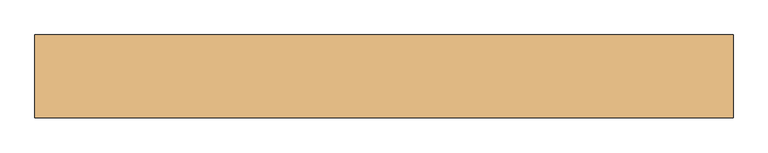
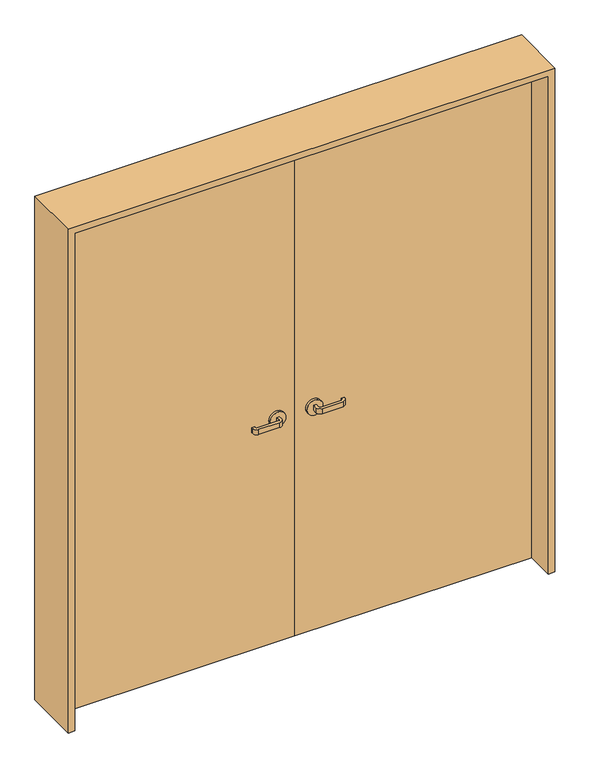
"""IFC4 building model written with IfcOpenShell, lengths in millimetres: door geometry, 両開き戸 : 両開き：w1800h2000."""

from ifc_helpers import new_model, si_unit, point, frame, frame_2d, origin, origin_with_axes, place, context, project, spatial, polyline, circle_curve, trimmed, segment, composite_curve, outline, extrude, source, transform, mapped, element, save


def door_d36aa26d(model_context):
    return source(origin(), model_context, "Body", "SweptSolid", [
        extrude(outline(polyline([(891.5283918, 40.0), (891.5283918, 0.0), (-8.4716082, 0.0), (-8.4716082, 40.0), (891.5283918, 40.0)])), origin_with_axes(), (0.0, 0.0, 1.0), 2000.0),
        extrude(outline(polyline([(-8.4716082, 40.0), (-8.4716082, 0.0), (-908.4716082, 0.0), (-908.4716082, 40.0), (-8.4716082, 40.0)])), origin_with_axes(), (0.0, 0.0, 1.0), 2000.0),
        extrude(outline(composite_curve([segment(polyline([(-83.4716082, 50.0), (-83.4716082, 65.0)]), True, "CONTINUOUS"), segment(trimmed(circle_curve(frame_2d((-88.4716082, 65.0)), 5.0), [point((-83.4716082, 65.0))], [point((-88.4716082, 70.0))], True, "CARTESIAN"), True, "CONTINUOUS"), segment(polyline([(-88.4716082, 70.0), (-168.4716082, 70.0)]), True, "CONTINUOUS"), segment(trimmed(circle_curve(frame_2d((-168.4716082, 65.0)), 5.0), [point((-168.4716082, 70.0))], [point((-173.4716082, 65.0))], True, "CARTESIAN"), True, "CONTINUOUS"), segment(polyline([(-173.4716082, 65.0), (-173.4716082, 60.0), (-183.4716082, 60.0), (-183.4716082, 65.0)]), True, "CONTINUOUS"), segment(trimmed(circle_curve(frame_2d((-168.4716082, 65.0)), 15.0), [point((-183.4716082, 65.0))], [point((-168.4716082, 80.0))], False, "CARTESIAN"), True, "CONTINUOUS"), segment(polyline([(-168.4716082, 80.0), (-88.4716082, 80.0)]), True, "CONTINUOUS"), segment(trimmed(circle_curve(frame_2d((-88.4716082, 65.0)), 15.0), [point((-88.4716082, 80.0))], [point((-73.4716082, 65.0))], False, "CARTESIAN"), True, "CONTINUOUS"), segment(polyline([(-73.4716082, 65.0), (-73.4716082, 50.0), (-83.4716082, 50.0)]), True, "CONTINUOUS")], self_intersect=False)), frame((0.0, 0.0, 890.0), z_axis=(0.0, 0.0, 1.0), x_axis=(1.0, 0.0, 0.0)), (0.0, 0.0, 1.0), 20.0),
        extrude(outline(composite_curve([segment(trimmed(circle_curve(frame_2d((900.0, -78.4716082)), 30.0), [point((900.0, -48.4716082))], [point((900.0, -108.4716082))], False, "CARTESIAN"), True, "CONTINUOUS"), segment(trimmed(circle_curve(frame_2d((900.0, -78.4716082)), 30.0), [point((900.0, -108.4716082))], [point((900.0, -48.4716082))], False, "CARTESIAN"), True, "CONTINUOUS")], self_intersect=False)), frame((0.0, 40.0, 0.0), z_axis=(0.0, 1.0, 0.0), x_axis=(0.0, 0.0, 1.0)), (0.0, 0.0, 1.0), 10.0),
        extrude(outline(composite_curve([segment(polyline([(-73.4716082, -10.0), (-73.4716082, -25.0)]), True, "CONTINUOUS"), segment(trimmed(circle_curve(frame_2d((-88.4716082, -25.0)), 15.0), [point((-73.4716082, -25.0))], [point((-88.4716082, -40.0))], False, "CARTESIAN"), True, "CONTINUOUS"), segment(polyline([(-88.4716082, -40.0), (-168.4716082, -40.0)]), True, "CONTINUOUS"), segment(trimmed(circle_curve(frame_2d((-168.4716082, -25.0)), 15.0), [point((-168.4716082, -40.0))], [point((-183.4716082, -25.0))], False, "CARTESIAN"), True, "CONTINUOUS"), segment(polyline([(-183.4716082, -25.0), (-183.4716082, -20.0), (-173.4716082, -20.0), (-173.4716082, -25.0)]), True, "CONTINUOUS"), segment(trimmed(circle_curve(frame_2d((-168.4716082, -25.0)), 5.0), [point((-173.4716082, -25.0))], [point((-168.4716082, -30.0))], True, "CARTESIAN"), True, "CONTINUOUS"), segment(polyline([(-168.4716082, -30.0), (-88.4716082, -30.0)]), True, "CONTINUOUS"), segment(trimmed(circle_curve(frame_2d((-88.4716082, -25.0)), 5.0), [point((-88.4716082, -30.0))], [point((-83.4716082, -25.0))], True, "CARTESIAN"), True, "CONTINUOUS"), segment(polyline([(-83.4716082, -25.0), (-83.4716082, -10.0), (-73.4716082, -10.0)]), True, "CONTINUOUS")], self_intersect=False)), frame((0.0, 0.0, 890.0), z_axis=(0.0, 0.0, 1.0), x_axis=(1.0, 0.0, 0.0)), (0.0, 0.0, 1.0), 20.0),
        extrude(outline(composite_curve([segment(trimmed(circle_curve(frame_2d((900.0, -78.4716082)), 30.0), [point((900.0, -48.4716082))], [point((900.0, -108.4716082))], False, "CARTESIAN"), True, "CONTINUOUS"), segment(trimmed(circle_curve(frame_2d((900.0, -78.4716082)), 30.0), [point((900.0, -108.4716082))], [point((900.0, -48.4716082))], False, "CARTESIAN"), True, "CONTINUOUS")], self_intersect=False)), frame((0.0, -10.0, 0.0), z_axis=(0.0, 1.0, 0.0), x_axis=(0.0, 0.0, 1.0)), (0.0, 0.0, 1.0), 10.0),
        extrude(outline(composite_curve([segment(polyline([(66.5283918, 50.0), (56.5283918, 50.0), (56.5283918, 65.0)]), True, "CONTINUOUS"), segment(trimmed(circle_curve(frame_2d((71.5283918, 65.0)), 15.0), [point((56.5283918, 65.0))], [point((71.5283918, 80.0))], False, "CARTESIAN"), True, "CONTINUOUS"), segment(polyline([(71.5283918, 80.0), (151.5283918, 80.0)]), True, "CONTINUOUS"), segment(trimmed(circle_curve(frame_2d((151.5283918, 65.0)), 15.0), [point((151.5283918, 80.0))], [point((166.5283918, 65.0))], False, "CARTESIAN"), True, "CONTINUOUS"), segment(polyline([(166.5283918, 65.0), (166.5283918, 60.0), (156.5283918, 60.0), (156.5283918, 65.0)]), True, "CONTINUOUS"), segment(trimmed(circle_curve(frame_2d((151.5283918, 65.0)), 5.0), [point((156.5283918, 65.0))], [point((151.5283918, 70.0))], True, "CARTESIAN"), True, "CONTINUOUS"), segment(polyline([(151.5283918, 70.0), (71.5283918, 70.0)]), True, "CONTINUOUS"), segment(trimmed(circle_curve(frame_2d((71.5283918, 65.0)), 5.0), [point((71.5283918, 70.0))], [point((66.5283918, 65.0))], True, "CARTESIAN"), True, "CONTINUOUS"), segment(polyline([(66.5283918, 65.0), (66.5283918, 50.0)]), True, "CONTINUOUS")], self_intersect=False)), frame((0.0, 0.0, 890.0), z_axis=(0.0, 0.0, 1.0), x_axis=(1.0, 0.0, 0.0)), (0.0, 0.0, 1.0), 20.0),
        extrude(outline(composite_curve([segment(trimmed(circle_curve(frame_2d((900.0, 61.5283918)), 30.0), [point((900.0, 31.5283918))], [point((900.0, 91.5283918))], False, "CARTESIAN"), True, "CONTINUOUS"), segment(trimmed(circle_curve(frame_2d((900.0, 61.5283918)), 30.0), [point((900.0, 91.5283918))], [point((900.0, 31.5283918))], False, "CARTESIAN"), True, "CONTINUOUS")], self_intersect=False)), frame((0.0, 40.0, 0.0), z_axis=(0.0, 1.0, 0.0), x_axis=(0.0, 0.0, 1.0)), (0.0, 0.0, 1.0), 10.0),
        extrude(outline(composite_curve([segment(polyline([(56.5283918, -10.0), (66.5283918, -10.0), (66.5283918, -25.0)]), True, "CONTINUOUS"), segment(trimmed(circle_curve(frame_2d((71.5283918, -25.0)), 5.0), [point((66.5283918, -25.0))], [point((71.5283918, -30.0))], True, "CARTESIAN"), True, "CONTINUOUS"), segment(polyline([(71.5283918, -30.0), (151.5283918, -30.0)]), True, "CONTINUOUS"), segment(trimmed(circle_curve(frame_2d((151.5283918, -25.0)), 5.0), [point((151.5283918, -30.0))], [point((156.5283918, -25.0))], True, "CARTESIAN"), True, "CONTINUOUS"), segment(polyline([(156.5283918, -25.0), (156.5283918, -20.0), (166.5283918, -20.0), (166.5283918, -25.0)]), True, "CONTINUOUS"), segment(trimmed(circle_curve(frame_2d((151.5283918, -25.0)), 15.0), [point((166.5283918, -25.0))], [point((151.5283918, -40.0))], False, "CARTESIAN"), True, "CONTINUOUS"), segment(polyline([(151.5283918, -40.0), (71.5283918, -40.0)]), True, "CONTINUOUS"), segment(trimmed(circle_curve(frame_2d((71.5283918, -25.0)), 15.0), [point((71.5283918, -40.0))], [point((56.5283918, -25.0))], False, "CARTESIAN"), True, "CONTINUOUS"), segment(polyline([(56.5283918, -25.0), (56.5283918, -10.0)]), True, "CONTINUOUS")], self_intersect=False)), frame((0.0, 0.0, 890.0), z_axis=(0.0, 0.0, 1.0), x_axis=(1.0, 0.0, 0.0)), (0.0, 0.0, 1.0), 20.0),
        extrude(outline(composite_curve([segment(trimmed(circle_curve(frame_2d((900.0, 61.5283918)), 30.0), [point((900.0, 31.5283918))], [point((900.0, 91.5283918))], False, "CARTESIAN"), True, "CONTINUOUS"), segment(trimmed(circle_curve(frame_2d((900.0, 61.5283918)), 30.0), [point((900.0, 91.5283918))], [point((900.0, 31.5283918))], False, "CARTESIAN"), True, "CONTINUOUS")], self_intersect=False)), frame((0.0, -10.0, 0.0), z_axis=(0.0, 1.0, 0.0), x_axis=(0.0, 0.0, 1.0)), (0.0, 0.0, 1.0), 10.0),
        extrude(outline(polyline([(0.0, -933.4716082), (0.0, -908.4716082), (2000.0, -908.4716082), (2000.0, 891.5283918), (0.0, 891.5283918), (0.0, 916.5283918), (2025.0, 916.5283918), (2025.0, -933.4716082), (0.0, -933.4716082)])), frame((0.0, -110.0, 0.0), z_axis=(0.0, 1.0, 0.0), x_axis=(0.0, 0.0, 1.0)), (0.0, 0.0, 1.0), 220.0),
    ])


if __name__ == "__main__":
    model = new_model("IFC4")
    model_context = context("Model", 3, world=origin())
    ifc_project = project(units=[si_unit("LENGTHUNIT", "METRE", prefix="MILLI")], contexts=[model_context])
    site = spatial("IfcSite", under=ifc_project)
    building = spatial("IfcBuilding", under=site)
    placement = place(None, origin())
    door_shape = door_d36aa26d(model_context)
    element("IfcDoor", 1, ObjectType="両開き戸 : 両開き：w1800h2000", at=placement, inside=building, context=model_context, shape_type="MappedRepresentation", body=[
        mapped(door_shape, transform((0.0, 0.0, 0.0), x_axis=(1.0, 0.0, 0.0), y_axis=(0.0, 1.0, 0.0), z_axis=(0.0, 0.0, 1.0))),
    ])
    save(model, "model.ifc")
